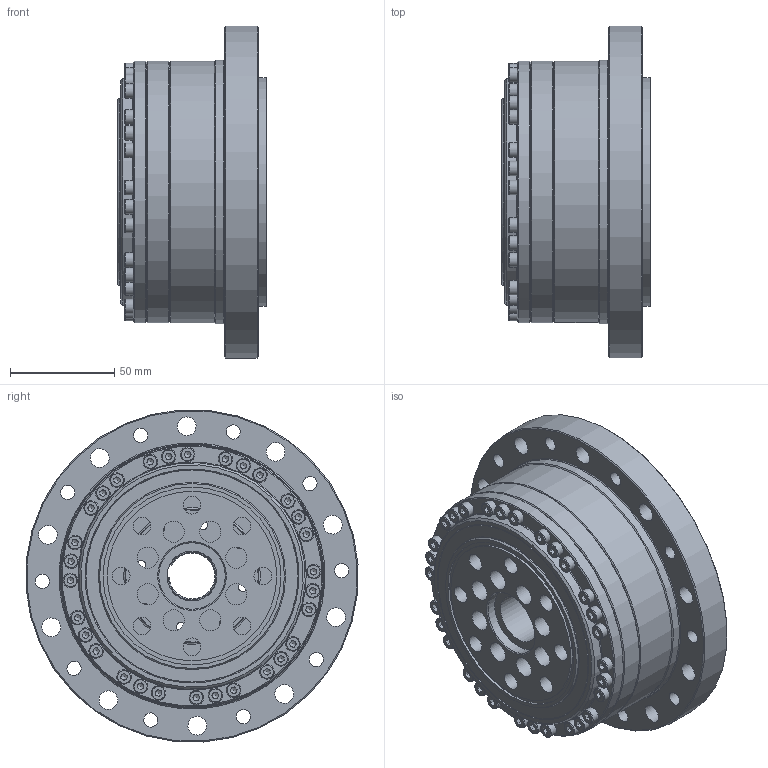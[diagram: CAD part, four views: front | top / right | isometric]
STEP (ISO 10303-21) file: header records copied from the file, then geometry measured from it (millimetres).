
FILE_DESCRIPTION (( 'STEP AP203' ), '1' );
FILE_NAME ('LCSG-40-XXX-C-I-S0A.STEP', '2025-01-20T02:10:26', ( '' ), ( '' ), 'SwSTEP 2.0', 'SolidWorks 2023', '' );
FILE_SCHEMA (( 'CONFIG_CONTROL_DESIGN' ));
Length unit declared in the file: metre
Products named in the file (1): LCSG-40-XXX-C-I-S0A
Bounding box: 71.5 x 159.6 x 159.6 mm (x, y, z)
Volume: 598198.7 mm3; surface area: 275319.3 mm2
Topology: 69 solids, 69 shells, 1236 faces, 2867 edges, 1783 vertices
Faces by surface type: plane 641, cylinder 327, cone 159, bspline 109
Full cylindrical faces by diameter (mm): 2.5 x4, 3 x4, 3.3 x31, 3.4 x4, 4 x34, 4.2 x4, 4.5 x50, 5.5 x8, 6.8 x10, 7 x30, 8.5 x8, 9 x10, 10.2 x8, 12.5 x16, 24 x2, 28 x2, 32 x2, 40 x1, 40.2 x1, 64 x1, 66 x1, 67 x2, 70.5 x1, 71.5 x1, 72 x1, 75 x2, 76.928 x2, 78.13 x1, 81.5 x1, 83.5 x1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
Entity records: 42590 total; most frequent: CARTESIAN_POINT 17128, DIRECTION 5372, ORIENTED_EDGE 4344, AXIS2_PLACEMENT_3D 2203, EDGE_CURVE 2172, EDGE_LOOP 2054, VERTEX_POINT 1602, FACE_OUTER_BOUND 1579
